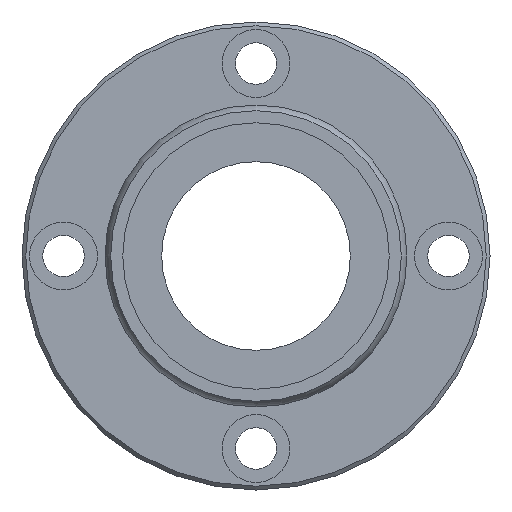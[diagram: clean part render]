
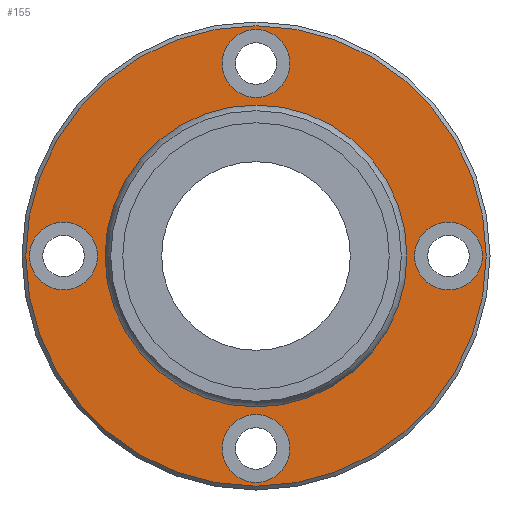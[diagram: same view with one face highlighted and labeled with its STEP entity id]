
A CAD part, left-side view. The second image highlights one B-rep face of the part: STEP entity #155.
In plain terms, the highlighted planar face has unit normal (-1, 0, 0).
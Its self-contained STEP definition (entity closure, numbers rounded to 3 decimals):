
#60=CARTESIAN_POINT('',(57.5,0.,30.5));
#61=VERTEX_POINT('',#60);
#62=CARTESIAN_POINT('',(57.5,0.0,0.0));
#63=DIRECTION('',(1.0,0.0,0.0));
#64=DIRECTION('',(0.0,0.0,-1.0));
#65=AXIS2_PLACEMENT_3D('',#62,#63,#64);
#66=CIRCLE('',#65,30.5);
#67=EDGE_CURVE('',#61,#61,#66,.T.);
#92=CARTESIAN_POINT('',(57.5,0.0,25.282));
#93=DIRECTION('',(-1.0,0.0,0.0));
#94=DIRECTION('',(0.0,0.0,1.0));
#95=AXIS2_PLACEMENT_3D('',#92,#93,#94);
#96=PLANE('',#95);
#97=ORIENTED_EDGE('',*,*,#67,.F.);
#98=EDGE_LOOP('',(#97));
#99=FACE_OUTER_BOUND('',#98,.T.);
#100=CARTESIAN_POINT('',(57.5,0.0,19.564));
#101=VERTEX_POINT('',#100);
#102=CARTESIAN_POINT('',(57.5,0.0,0.0));
#103=DIRECTION('',(-1.0,0.0,0.0));
#104=DIRECTION('',(0.0,0.0,1.0));
#105=AXIS2_PLACEMENT_3D('',#102,#103,#104);
#106=CIRCLE('',#105,19.564);
#107=EDGE_CURVE('',#101,#101,#106,.T.);
#108=ORIENTED_EDGE('',*,*,#107,.F.);
#109=EDGE_LOOP('',(#108));
#110=FACE_BOUND('',#109,.T.);
#111=CARTESIAN_POINT('',(57.5,-21.0,0.));
#112=VERTEX_POINT('',#111);
#113=CARTESIAN_POINT('',(57.5,-25.5,0.));
#114=DIRECTION('',(1.0,0.0,0.0));
#115=DIRECTION('',(0.0,1.0,0.0));
#116=AXIS2_PLACEMENT_3D('',#113,#114,#115);
#117=CIRCLE('',#116,4.5);
#118=EDGE_CURVE('',#112,#112,#117,.T.);
#119=ORIENTED_EDGE('',*,*,#118,.T.);
#120=EDGE_LOOP('',(#119));
#121=FACE_BOUND('',#120,.T.);
#122=CARTESIAN_POINT('',(57.5,30.,0.));
#123=VERTEX_POINT('',#122);
#124=CARTESIAN_POINT('',(57.5,25.5,0.));
#125=DIRECTION('',(1.0,0.0,0.0));
#126=DIRECTION('',(0.0,1.0,0.0));
#127=AXIS2_PLACEMENT_3D('',#124,#125,#126);
#128=CIRCLE('',#127,4.5);
#129=EDGE_CURVE('',#123,#123,#128,.T.);
#130=ORIENTED_EDGE('',*,*,#129,.T.);
#131=EDGE_LOOP('',(#130));
#132=FACE_BOUND('',#131,.T.);
#133=CARTESIAN_POINT('',(57.5,4.5,25.5));
#134=VERTEX_POINT('',#133);
#135=CARTESIAN_POINT('',(57.5,0.,25.5));
#136=DIRECTION('',(1.0,0.0,0.0));
#137=DIRECTION('',(0.0,1.0,0.0));
#138=AXIS2_PLACEMENT_3D('',#135,#136,#137);
#139=CIRCLE('',#138,4.5);
#140=EDGE_CURVE('',#134,#134,#139,.T.);
#141=ORIENTED_EDGE('',*,*,#140,.T.);
#142=EDGE_LOOP('',(#141));
#143=FACE_BOUND('',#142,.T.);
#144=CARTESIAN_POINT('',(57.5,4.5,-25.5));
#145=VERTEX_POINT('',#144);
#146=CARTESIAN_POINT('',(57.5,0.,-25.5));
#147=DIRECTION('',(1.0,0.0,0.0));
#148=DIRECTION('',(0.0,1.0,0.0));
#149=AXIS2_PLACEMENT_3D('',#146,#147,#148);
#150=CIRCLE('',#149,4.5);
#151=EDGE_CURVE('',#145,#145,#150,.T.);
#152=ORIENTED_EDGE('',*,*,#151,.T.);
#153=EDGE_LOOP('',(#152));
#154=FACE_BOUND('',#153,.T.);
#155=ADVANCED_FACE('',(#99,#110,#121,#132,#143,#154),#96,.T.);
